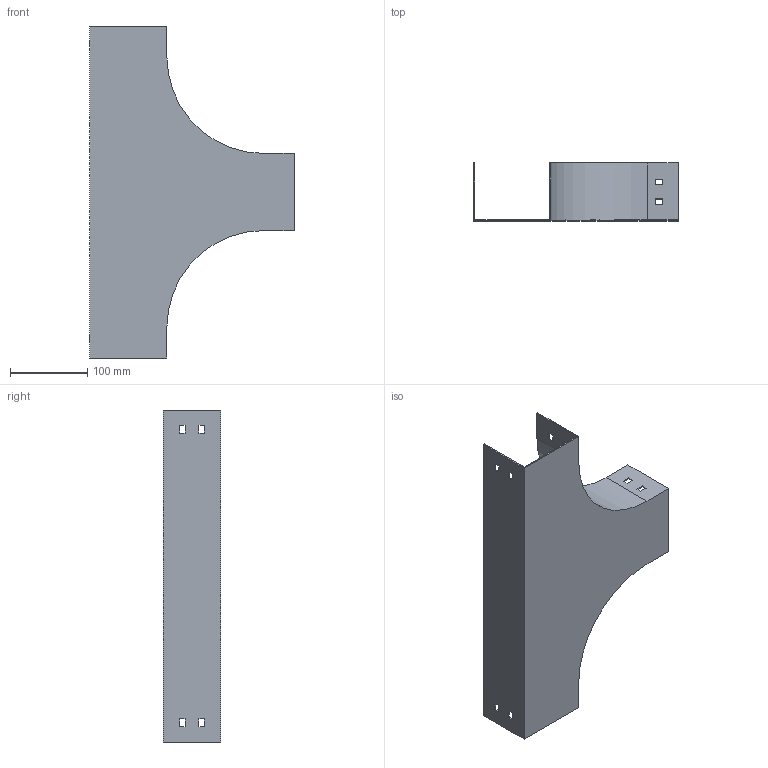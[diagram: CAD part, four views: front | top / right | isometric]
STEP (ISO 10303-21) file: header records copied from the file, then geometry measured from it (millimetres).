
FILE_DESCRIPTION (( 'STEP AP214' ), '1' );
FILE_NAME ('PT_107.step', '2025-07-16T09:23:17', ( '' ), ( '' ), 'SwSTEP 2.0', 'SolidWorks 2023', '' );
FILE_SCHEMA (( 'AUTOMOTIVE_DESIGN' ));
Length unit declared in the file: millimetre
Products named in the file (1): PT_107
Bounding box: 265 x 75 x 430 mm (x, y, z)
Volume: 206651.8 mm3; surface area: 278733.3 mm2
Topology: 1 solids, 1 shells, 70 faces, 204 edges, 136 vertices
Faces by surface type: plane 66, cylinder 4
Entity records: 2347 total; most frequent: CARTESIAN_POINT 411, ORIENTED_EDGE 408, DIRECTION 354, EDGE_CURVE 204, LINE 196, VECTOR 196, VERTEX_POINT 136, EDGE_LOOP 94
